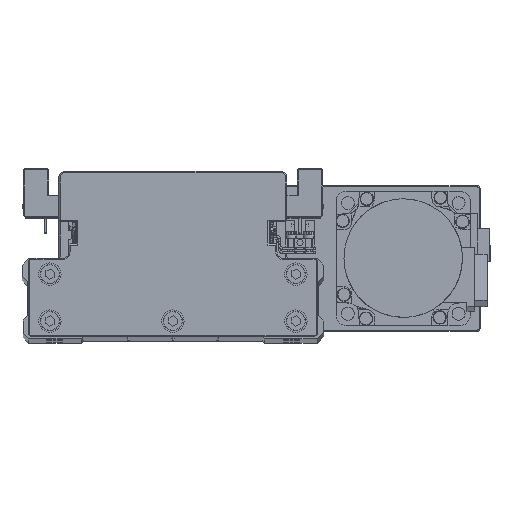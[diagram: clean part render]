
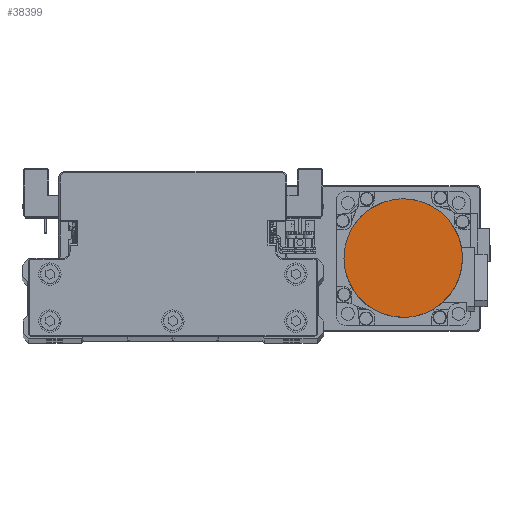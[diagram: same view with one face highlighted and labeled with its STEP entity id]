
A CAD part, top view. The second image highlights one B-rep face of the part: STEP entity #38399.
In plain terms, the highlighted planar face has unit normal (0, 0, 1) as drawn and (0, 0, -1) by its records, which use the part's own axes.
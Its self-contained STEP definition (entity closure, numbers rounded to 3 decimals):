
#130 = CARTESIAN_POINT ( 'NONE',  ( 26.329, 3.469, -109.7 ) ) ;
#342 = CARTESIAN_POINT ( 'NONE',  ( 3.469, 26.329, -109.7 ) ) ;
#396 = CARTESIAN_POINT ( 'NONE',  ( 3.469, -26.329, -109.7 ) ) ;
#535 = CARTESIAN_POINT ( 'NONE',  ( -23.819, 11.744, -109.7 ) ) ;
#595 = CARTESIAN_POINT ( 'NONE',  ( 26.329, -3.469, -109.7 ) ) ;
#834 = AXIS2_PLACEMENT_3D ( 'NONE', #36512, #7931, #20685 ) ;
#2742 = CARTESIAN_POINT ( 'NONE',  ( -26.329, -3.469, -109.7 ) ) ;
#3465 = CARTESIAN_POINT ( 'NONE',  ( 11.744, 23.819, -109.7 ) ) ;
#3536 = CARTESIAN_POINT ( 'NONE',  ( -3.469, -26.329, -109.7 ) ) ;
#3681 = CARTESIAN_POINT ( 'NONE',  ( -19.965, 17.512, -109.7 ) ) ;
#3737 = CARTESIAN_POINT ( 'NONE',  ( 23.819, -11.744, -109.7 ) ) ;
#4816 = ORIENTED_EDGE ( 'NONE', *, *, #8244, .F. ) ;
#6085 = CARTESIAN_POINT ( 'NONE',  ( -11.744, -23.819, -109.7 ) ) ;
#6393 = CARTESIAN_POINT ( 'NONE',  ( 26.5, 0., -109.7 ) ) ;
#6598 = CARTESIAN_POINT ( 'NONE',  ( 17.512, 19.965, -109.7 ) ) ;
#6811 = CARTESIAN_POINT ( 'NONE',  ( -13.28, 22.998, -109.7 ) ) ;
#6875 = CARTESIAN_POINT ( 'NONE',  ( 19.965, -17.512, -109.7 ) ) ;
#7931 = DIRECTION ( 'NONE',  ( 0., 0., 1. ) ) ;
#8244 = EDGE_CURVE ( 'NONE', #28509, #31659, #8451, .T. ) ;
#8451 = B_SPLINE_CURVE_WITH_KNOTS ( 'NONE', 3,
 ( #18611, #31332, #2742, #15483, #28205, #40935, #12340, #25064, #37780, #9197, #21944, #34659, #6085, #18828, #31550, #3536, #16264, #28982, #396, #13112, #25845, #38571, #9995, #22724, #35439, #6875, #19607, #32317, #3737, #16459, #29181, #595, #13324, #26057 ),
 .UNSPECIFIED., .F., .F.,
 ( 4, 2, 2, 2, 2, 2, 2, 2, 2, 2, 2, 2, 2, 2, 2, 2, 4 ),
 ( 0., 0.063, 0.125, 0.188, 0.25, 0.312, 0.375, 0.437, 0.5, 0.562, 0.625, 0.687, 0.75, 0.813, 0.875, 0.938, 1. ),
 .UNSPECIFIED. ) ;
#9197 = CARTESIAN_POINT ( 'NONE',  ( -17.512, -19.965, -109.7 ) ) ;
#9384 = B_SPLINE_CURVE_WITH_KNOTS ( 'NONE', 3,
 ( #6393, #28706, #130, #12856, #25589, #38311, #9732, #22453, #35171, #6598, #19334, #32053, #3465, #16206, #28927, #342, #13057, #25785, #38508, #9929, #22662, #35377, #6811, #19548, #32264, #3681, #16407, #29122, #535, #13252, #25994, #38723, #10145, #22883 ),
 .UNSPECIFIED., .F., .F.,
 ( 4, 2, 2, 2, 2, 2, 2, 2, 2, 2, 2, 2, 2, 2, 2, 2, 4 ),
 ( 0., 0.062, 0.125, 0.187, 0.25, 0.312, 0.375, 0.437, 0.5, 0.562, 0.625, 0.687, 0.75, 0.813, 0.875, 0.938, 1. ),
 .UNSPECIFIED. ) ;
#9732 = CARTESIAN_POINT ( 'NONE',  ( 22.998, 13.28, -109.7 ) ) ;
#9929 = CARTESIAN_POINT ( 'NONE',  ( -6.871, 25.652, -109.7 ) ) ;
#9995 = CARTESIAN_POINT ( 'NONE',  ( 13.28, -22.998, -109.7 ) ) ;
#10145 = CARTESIAN_POINT ( 'NONE',  ( -26.5, 1.734, -109.7 ) ) ;
#11070 = FACE_OUTER_BOUND ( 'NONE', #15340, .T. ) ;
#12340 = CARTESIAN_POINT ( 'NONE',  ( -22.998, -13.28, -109.7 ) ) ;
#12856 = CARTESIAN_POINT ( 'NONE',  ( 25.652, 6.871, -109.7 ) ) ;
#13057 = CARTESIAN_POINT ( 'NONE',  ( 1.734, 26.5, -109.7 ) ) ;
#13112 = CARTESIAN_POINT ( 'NONE',  ( 6.871, -25.652, -109.7 ) ) ;
#13176 = ORIENTED_EDGE ( 'NONE', *, *, #25268, .F. ) ;
#13252 = CARTESIAN_POINT ( 'NONE',  ( -25.147, 8.539, -109.7 ) ) ;
#13324 = CARTESIAN_POINT ( 'NONE',  ( 26.5, -1.734, -109.7 ) ) ;
#15340 = EDGE_LOOP ( 'NONE', ( #13176, #4816 ) ) ;
#15483 = CARTESIAN_POINT ( 'NONE',  ( -25.652, -6.871, -109.7 ) ) ;
#16206 = CARTESIAN_POINT ( 'NONE',  ( 8.539, 25.147, -109.7 ) ) ;
#16264 = CARTESIAN_POINT ( 'NONE',  ( -1.734, -26.5, -109.7 ) ) ;
#16407 = CARTESIAN_POINT ( 'NONE',  ( -21.07, 16.165, -109.7 ) ) ;
#16459 = CARTESIAN_POINT ( 'NONE',  ( 25.147, -8.539, -109.7 ) ) ;
#18611 = CARTESIAN_POINT ( 'NONE',  ( -26.5, 0., -109.7 ) ) ;
#18828 = CARTESIAN_POINT ( 'NONE',  ( -8.539, -25.147, -109.7 ) ) ;
#19334 = CARTESIAN_POINT ( 'NONE',  ( 16.165, 21.07, -109.7 ) ) ;
#19548 = CARTESIAN_POINT ( 'NONE',  ( -16.165, 21.07, -109.7 ) ) ;
#19607 = CARTESIAN_POINT ( 'NONE',  ( 21.07, -16.165, -109.7 ) ) ;
#20205 = CARTESIAN_POINT ( 'NONE',  ( -26.5, 0., -109.7 ) ) ;
#20685 = DIRECTION ( 'NONE',  ( 1., 0., 0. ) ) ;
#21944 = CARTESIAN_POINT ( 'NONE',  ( -16.165, -21.07, -109.7 ) ) ;
#22453 = CARTESIAN_POINT ( 'NONE',  ( 21.07, 16.165, -109.7 ) ) ;
#22662 = CARTESIAN_POINT ( 'NONE',  ( -8.539, 25.147, -109.7 ) ) ;
#22724 = CARTESIAN_POINT ( 'NONE',  ( 16.165, -21.07, -109.7 ) ) ;
#22883 = CARTESIAN_POINT ( 'NONE',  ( -26.5, 0., -109.7 ) ) ;
#23809 = PLANE ( 'NONE',  #834 ) ;
#25064 = CARTESIAN_POINT ( 'NONE',  ( -21.07, -16.165, -109.7 ) ) ;
#25268 = EDGE_CURVE ( 'NONE', #31659, #28509, #9384, .T. ) ;
#25589 = CARTESIAN_POINT ( 'NONE',  ( 25.147, 8.539, -109.7 ) ) ;
#25785 = CARTESIAN_POINT ( 'NONE',  ( -1.734, 26.5, -109.7 ) ) ;
#25845 = CARTESIAN_POINT ( 'NONE',  ( 8.539, -25.147, -109.7 ) ) ;
#25994 = CARTESIAN_POINT ( 'NONE',  ( -25.652, 6.871, -109.7 ) ) ;
#26057 = CARTESIAN_POINT ( 'NONE',  ( 26.5, 0., -109.7 ) ) ;
#28205 = CARTESIAN_POINT ( 'NONE',  ( -25.147, -8.539, -109.7 ) ) ;
#28509 = VERTEX_POINT ( 'NONE', #20205 ) ;
#28706 = CARTESIAN_POINT ( 'NONE',  ( 26.5, 1.734, -109.7 ) ) ;
#28927 = CARTESIAN_POINT ( 'NONE',  ( 6.871, 25.652, -109.7 ) ) ;
#28982 = CARTESIAN_POINT ( 'NONE',  ( 1.734, -26.5, -109.7 ) ) ;
#29122 = CARTESIAN_POINT ( 'NONE',  ( -22.998, 13.28, -109.7 ) ) ;
#29181 = CARTESIAN_POINT ( 'NONE',  ( 25.652, -6.871, -109.7 ) ) ;
#31332 = CARTESIAN_POINT ( 'NONE',  ( -26.5, -1.734, -109.7 ) ) ;
#31550 = CARTESIAN_POINT ( 'NONE',  ( -6.871, -25.652, -109.7 ) ) ;
#31659 = VERTEX_POINT ( 'NONE', #36918 ) ;
#32053 = CARTESIAN_POINT ( 'NONE',  ( 13.28, 22.998, -109.7 ) ) ;
#32264 = CARTESIAN_POINT ( 'NONE',  ( -17.512, 19.965, -109.7 ) ) ;
#32317 = CARTESIAN_POINT ( 'NONE',  ( 22.998, -13.28, -109.7 ) ) ;
#34659 = CARTESIAN_POINT ( 'NONE',  ( -13.28, -22.998, -109.7 ) ) ;
#35171 = CARTESIAN_POINT ( 'NONE',  ( 19.965, 17.512, -109.7 ) ) ;
#35377 = CARTESIAN_POINT ( 'NONE',  ( -11.744, 23.819, -109.7 ) ) ;
#35439 = CARTESIAN_POINT ( 'NONE',  ( 17.512, -19.965, -109.7 ) ) ;
#36512 = CARTESIAN_POINT ( 'NONE',  ( 0., 0., -109.7 ) ) ;
#36918 = CARTESIAN_POINT ( 'NONE',  ( 26.5, 0., -109.7 ) ) ;
#37780 = CARTESIAN_POINT ( 'NONE',  ( -19.965, -17.512, -109.7 ) ) ;
#38311 = CARTESIAN_POINT ( 'NONE',  ( 23.819, 11.744, -109.7 ) ) ;
#38399 = ADVANCED_FACE ( 'NONE', ( #11070 ), #23809, .F. ) ;
#38508 = CARTESIAN_POINT ( 'NONE',  ( -3.469, 26.329, -109.7 ) ) ;
#38571 = CARTESIAN_POINT ( 'NONE',  ( 11.744, -23.819, -109.7 ) ) ;
#38723 = CARTESIAN_POINT ( 'NONE',  ( -26.329, 3.469, -109.7 ) ) ;
#40935 = CARTESIAN_POINT ( 'NONE',  ( -23.819, -11.744, -109.7 ) ) ;
